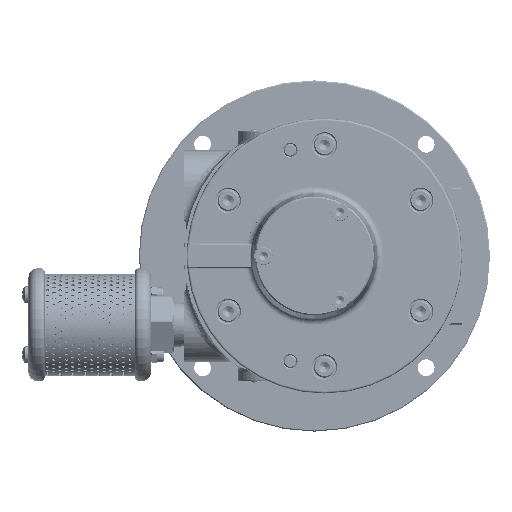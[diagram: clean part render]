
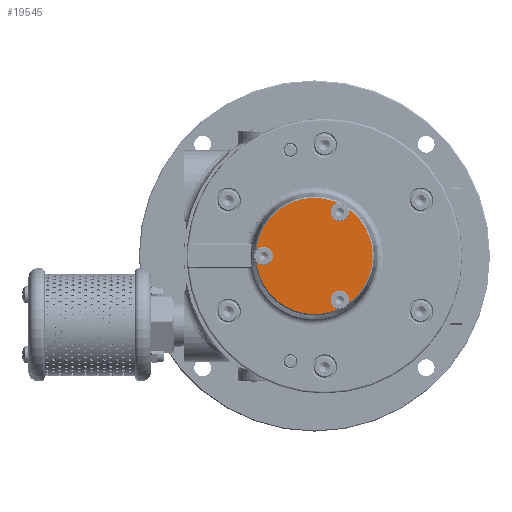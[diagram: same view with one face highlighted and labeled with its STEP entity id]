
A CAD part, left-side view. The second image highlights one B-rep face of the part: STEP entity #19545.
In plain terms, the highlighted planar face has unit normal (-1, 0, 0).
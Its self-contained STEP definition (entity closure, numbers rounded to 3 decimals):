
#6903 = DIRECTION ( 'NONE',  ( -1., 0., 0. ) ) ;
#10299 = CIRCLE ( 'NONE', #72209, 27.5 ) ;
#11150 = CARTESIAN_POINT ( 'NONE',  ( -65.28, -5.875, 23.166 ) ) ;
#19284 = VERTEX_POINT ( 'NONE', #11150 ) ;
#19545 = ADVANCED_FACE ( 'NONE', ( #74092, #273217, #192080, #269634 ), #280235, .F. ) ;
#21296 = CARTESIAN_POINT ( 'NONE',  ( -65.28, 27.375, -2.382 ) ) ;
#24230 = CIRCLE ( 'NONE', #32896, 27.5 ) ;
#27142 = ORIENTED_EDGE ( 'NONE', *, *, #93933, .F. ) ;
#32896 = AXIS2_PLACEMENT_3D ( 'NONE', #128588, #57570, #33771 ) ;
#33771 = DIRECTION ( 'NONE',  ( 0., 0.5, 0.866 ) ) ;
#37291 = EDGE_CURVE ( 'NONE', #221285, #94538, #24230, .T. ) ;
#37335 = DIRECTION ( 'NONE',  ( -1., 0., 0. ) ) ;
#43049 = CARTESIAN_POINT ( 'NONE',  ( -65.28, 4.75, 0. ) ) ;
#57570 = DIRECTION ( 'NONE',  ( -1., 0., 0. ) ) ;
#59055 = DIRECTION ( 'NONE',  ( 0., -0.5, -0.866 ) ) ;
#59102 = DIRECTION ( 'NONE',  ( -1., 0., 0. ) ) ;
#60616 = CARTESIAN_POINT ( 'NONE',  ( -65.28, -5.875, -18.403 ) ) ;
#64019 = CIRCLE ( 'NONE', #102103, 2.75 ) ;
#72209 = AXIS2_PLACEMENT_3D ( 'NONE', #43049, #137831, #280150 ) ;
#74092 = FACE_OUTER_BOUND ( 'NONE', #114567, .T. ) ;
#83053 = CARTESIAN_POINT ( 'NONE',  ( -65.28, 18.5, 23.816 ) ) ;
#85416 = CIRCLE ( 'NONE', #277800, 2.75 ) ;
#93933 = EDGE_CURVE ( 'NONE', #129058, #129554, #64019, .T. ) ;
#94538 = VERTEX_POINT ( 'NONE', #83053 ) ;
#96262 = ORIENTED_EDGE ( 'NONE', *, *, #113538, .F. ) ;
#100228 = AXIS2_PLACEMENT_3D ( 'NONE', #173335, #224825, #200111 ) ;
#102103 = AXIS2_PLACEMENT_3D ( 'NONE', #176551, #37335, #59055 ) ;
#104915 = EDGE_CURVE ( 'NONE', #265599, #19284, #85416, .T. ) ;
#113538 = EDGE_CURVE ( 'NONE', #251315, #186513, #171687, .T. ) ;
#114567 = EDGE_LOOP ( 'NONE', ( #204822, #162050 ) ) ;
#115183 = CIRCLE ( 'NONE', #100228, 2.75 ) ;
#116408 = AXIS2_PLACEMENT_3D ( 'NONE', #198262, #59102, #126071 ) ;
#120888 = ORIENTED_EDGE ( 'NONE', *, *, #104915, .F. ) ;
#126071 = DIRECTION ( 'NONE',  ( 0., -0.5, -0.866 ) ) ;
#128588 = CARTESIAN_POINT ( 'NONE',  ( -65.28, 4.75, 0. ) ) ;
#129058 = VERTEX_POINT ( 'NONE', #60616 ) ;
#129367 = AXIS2_PLACEMENT_3D ( 'NONE', #168603, #143942, #238775 ) ;
#129554 = VERTEX_POINT ( 'NONE', #277803 ) ;
#135864 = CARTESIAN_POINT ( 'NONE',  ( -65.28, -8.625, 18.403 ) ) ;
#137831 = DIRECTION ( 'NONE',  ( -1., 0., 0. ) ) ;
#141998 = DIRECTION ( 'NONE',  ( 0., 0.5, 0.866 ) ) ;
#143942 = DIRECTION ( 'NONE',  ( -1., 0., 0. ) ) ;
#152681 = EDGE_CURVE ( 'NONE', #19284, #265599, #115183, .T. ) ;
#153140 = CIRCLE ( 'NONE', #116408, 2.75 ) ;
#160276 = CARTESIAN_POINT ( 'NONE',  ( -65.28, 30.125, 2.382 ) ) ;
#162050 = ORIENTED_EDGE ( 'NONE', *, *, #37291, .T. ) ;
#166672 = CARTESIAN_POINT ( 'NONE',  ( -65.28, 4.75, 0. ) ) ;
#168603 = CARTESIAN_POINT ( 'NONE',  ( -65.28, 28.75, 0. ) ) ;
#168913 = EDGE_LOOP ( 'NONE', ( #120888, #187748 ) ) ;
#171687 = CIRCLE ( 'NONE', #129367, 2.75 ) ;
#173335 = CARTESIAN_POINT ( 'NONE',  ( -65.28, -7.25, 20.785 ) ) ;
#176551 = CARTESIAN_POINT ( 'NONE',  ( -65.28, -7.25, -20.785 ) ) ;
#186513 = VERTEX_POINT ( 'NONE', #21296 ) ;
#187748 = ORIENTED_EDGE ( 'NONE', *, *, #152681, .F. ) ;
#190416 = DIRECTION ( 'NONE',  ( 1., 0., 0. ) ) ;
#192080 = FACE_BOUND ( 'NONE', #168913, .T. ) ;
#192843 = EDGE_LOOP ( 'NONE', ( #244006, #96262 ) ) ;
#195536 = DIRECTION ( 'NONE',  ( 0., 1., 0. ) ) ;
#198262 = CARTESIAN_POINT ( 'NONE',  ( -65.28, -7.25, -20.785 ) ) ;
#200111 = DIRECTION ( 'NONE',  ( 0., -0.5, 0.866 ) ) ;
#204822 = ORIENTED_EDGE ( 'NONE', *, *, #232024, .T. ) ;
#221246 = CARTESIAN_POINT ( 'NONE',  ( -65.28, 28.75, 0. ) ) ;
#221285 = VERTEX_POINT ( 'NONE', #291986 ) ;
#224259 = EDGE_CURVE ( 'NONE', #186513, #251315, #265275, .T. ) ;
#224825 = DIRECTION ( 'NONE',  ( -1., 0., 0. ) ) ;
#232024 = EDGE_CURVE ( 'NONE', #94538, #221285, #10299, .T. ) ;
#238775 = DIRECTION ( 'NONE',  ( 0., 1., 0. ) ) ;
#239455 = EDGE_CURVE ( 'NONE', #129554, #129058, #153140, .T. ) ;
#239858 = EDGE_LOOP ( 'NONE', ( #287694, #27142 ) ) ;
#244006 = ORIENTED_EDGE ( 'NONE', *, *, #224259, .F. ) ;
#251315 = VERTEX_POINT ( 'NONE', #160276 ) ;
#251412 = CARTESIAN_POINT ( 'NONE',  ( -65.28, -7.25, 20.785 ) ) ;
#265275 = CIRCLE ( 'NONE', #301837, 2.75 ) ;
#265599 = VERTEX_POINT ( 'NONE', #135864 ) ;
#269634 = FACE_BOUND ( 'NONE', #239858, .T. ) ;
#273217 = FACE_BOUND ( 'NONE', #192843, .T. ) ;
#277800 = AXIS2_PLACEMENT_3D ( 'NONE', #251412, #299759, #298733 ) ;
#277803 = CARTESIAN_POINT ( 'NONE',  ( -65.28, -8.625, -23.166 ) ) ;
#280150 = DIRECTION ( 'NONE',  ( 0., 0.5, 0.866 ) ) ;
#280235 = PLANE ( 'NONE',  #290254 ) ;
#287694 = ORIENTED_EDGE ( 'NONE', *, *, #239455, .F. ) ;
#290254 = AXIS2_PLACEMENT_3D ( 'NONE', #166672, #190416, #141998 ) ;
#291986 = CARTESIAN_POINT ( 'NONE',  ( -65.28, -9., -23.816 ) ) ;
#298733 = DIRECTION ( 'NONE',  ( 0., -0.5, 0.866 ) ) ;
#299759 = DIRECTION ( 'NONE',  ( -1., 0., 0. ) ) ;
#301837 = AXIS2_PLACEMENT_3D ( 'NONE', #221246, #6903, #195536 ) ;
